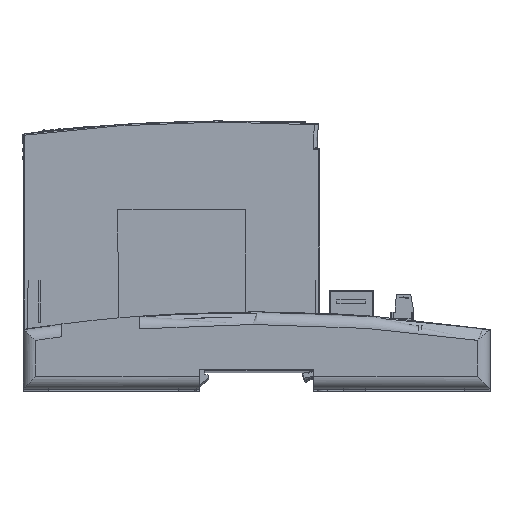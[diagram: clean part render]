
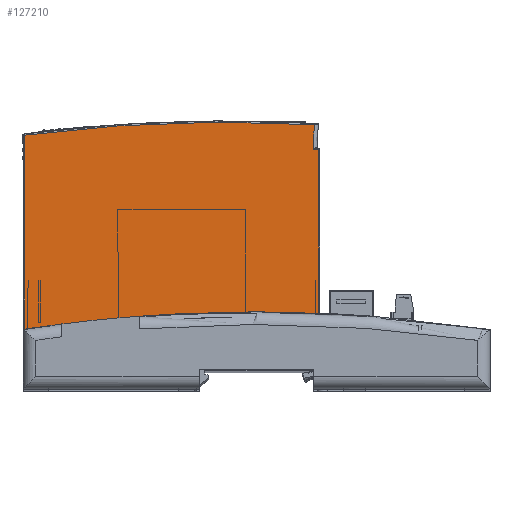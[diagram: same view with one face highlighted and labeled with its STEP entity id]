
A CAD part, top view. The second image highlights one B-rep face of the part: STEP entity #127210.
In plain terms, the highlighted planar face has unit normal (0, 0, 1).
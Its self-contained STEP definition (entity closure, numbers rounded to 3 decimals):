
#21523=DIRECTION('',(1.,0.,0.));
#21524=VECTOR('',#21523,17.321);
#21525=CARTESIAN_POINT('',(53.94,21.1,-0.2));
#21526=LINE('',#21525,#21524);
#21527=CARTESIAN_POINT('',(62.6,16.1,-0.2));
#21528=DIRECTION('',(0.,0.,1.));
#21529=DIRECTION('',(0.866,0.5,0.));
#21530=AXIS2_PLACEMENT_3D('',#21527,#21528,#21529);
#21532=DIRECTION('',(1.,0.,0.));
#21533=VECTOR('',#21532,0.3);
#21534=CARTESIAN_POINT('',(33.3,21.1,-0.2));
#21535=LINE('',#21534,#21533);
#21536=DIRECTION('',(-1.,0.,0.));
#21537=VECTOR('',#21536,25.);
#21538=CARTESIAN_POINT('',(28.6,21.1,-0.2));
#21539=LINE('',#21538,#21537);
#21540=DIRECTION('',(0.,1.,0.));
#21541=VECTOR('',#21540,2.);
#21542=CARTESIAN_POINT('',(3.6,21.1,-0.2));
#21543=LINE('',#21542,#21541);
#21544=CARTESIAN_POINT('',(78.144,-496.603,
-0.2));
#21545=DIRECTION('',(0.,0.,-1.));
#21546=DIRECTION('',(-0.129,0.992,0.));
#21547=AXIS2_PLACEMENT_3D('',#21544,#21545,#21546);
#21549=CARTESIAN_POINT('',(203.417,92.8,-0.2));
#21550=DIRECTION('',(0.,0.,1.));
#21551=DIRECTION('',(-0.995,0.1,0.));
#21552=AXIS2_PLACEMENT_3D('',#21549,#21550,#21551);
#21554=DIRECTION('',(1.,0.,0.));
#21555=VECTOR('',#21554,38.783);
#21556=CARTESIAN_POINT('',(113.917,21.1,-0.2));
#21557=LINE('',#21556,#21555);
#21558=DIRECTION('',(0.,-1.,0.));
#21559=VECTOR('',#21558,2.4);
#21560=CARTESIAN_POINT('',(152.7,21.1,-0.2));
#21561=LINE('',#21560,#21559);
#21562=DIRECTION('',(-1.,0.,0.));
#21563=VECTOR('',#21562,120.598);
#21564=CARTESIAN_POINT('',(152.7,18.7,-0.2));
#21565=LINE('',#21564,#21563);
#22392=DIRECTION('',(0.,-1.,0.));
#22393=VECTOR('',#22392,74.761);
#22394=CARTESIAN_POINT('',(0.6,97.861,
-0.2));
#22395=LINE('',#22394,#22393);
#22406=DIRECTION('',(1.,0.,0.));
#22407=VECTOR('',#22406,3.);
#22408=CARTESIAN_POINT('',(0.6,23.1,-0.2));
#22409=LINE('',#22408,#22407);
#22442=DIRECTION('',(0.,1.,0.));
#22443=VECTOR('',#22442,2.);
#22444=CARTESIAN_POINT('',(28.6,21.1,-0.2));
#22445=LINE('',#22444,#22443);
#22455=DIRECTION('',(1.,0.,0.));
#22456=VECTOR('',#22455,5.);
#22457=CARTESIAN_POINT('',(28.6,23.1,-0.2));
#22458=LINE('',#22457,#22456);
#22476=DIRECTION('',(0.,-1.,0.));
#22477=VECTOR('',#22476,2.);
#22478=CARTESIAN_POINT('',(33.6,23.1,-0.2));
#22479=LINE('',#22478,#22477);
#23865=DIRECTION('',(-1.,0.,0.));
#23866=VECTOR('',#23865,1.999);
#23867=CARTESIAN_POINT('',(113.917,92.3,-0.2));
#23868=LINE('',#23867,#23866);
#23879=DIRECTION('',(0.,1.,0.));
#23880=VECTOR('',#23879,71.2);
#23881=CARTESIAN_POINT('',(113.917,21.1,-0.2));
#23882=LINE('',#23881,#23880);
#23887=DIRECTION('',(0.001,-1.,0.));
#23888=VECTOR('',#23887,2.3);
#23889=CARTESIAN_POINT('',(32.1,21.,-0.2));
#23890=LINE('',#23889,#23888);
#23895=DIRECTION('',(-1.,0.,0.));
#23896=VECTOR('',#23895,1.2);
#23897=CARTESIAN_POINT('',(33.3,21.,-0.2));
#23898=LINE('',#23897,#23896);
#23946=DIRECTION('',(0.,1.,0.));
#23947=VECTOR('',#23946,0.1);
#23948=CARTESIAN_POINT('',(33.3,21.,-0.2));
#23949=LINE('',#23948,#23947);
#82835=CARTESIAN_POINT('',(152.7,18.7,-0.2));
#82836=CARTESIAN_POINT('',(32.102,18.7,-0.2));
#82837=VERTEX_POINT('',#82835);
#82838=VERTEX_POINT('',#82836);
#82839=CARTESIAN_POINT('',(152.7,21.1,-0.2));
#82840=VERTEX_POINT('',#82839);
#85156=CARTESIAN_POINT('',(3.6,21.1,-0.2));
#85158=VERTEX_POINT('',#85156);
#85161=CARTESIAN_POINT('',(28.6,21.1,-0.2));
#85163=VERTEX_POINT('',#85161);
#85166=CARTESIAN_POINT('',(3.6,23.1,-0.2));
#85168=VERTEX_POINT('',#85166);
#85255=CARTESIAN_POINT('',(28.6,23.1,-0.2));
#85256=CARTESIAN_POINT('',(33.6,23.1,-0.2));
#85257=VERTEX_POINT('',#85255);
#85258=VERTEX_POINT('',#85256);
#85259=CARTESIAN_POINT('',(0.6,23.1,-0.2));
#85260=VERTEX_POINT('',#85259);
#85261=CARTESIAN_POINT('',(0.6,97.861,
-0.2));
#85262=VERTEX_POINT('',#85261);
#85263=CARTESIAN_POINT('',(112.373,101.92,
-0.2));
#85264=VERTEX_POINT('',#85263);
#85265=CARTESIAN_POINT('',(113.917,92.3,-0.2));
#85266=CARTESIAN_POINT('',(111.918,92.3,-0.2));
#85267=VERTEX_POINT('',#85265);
#85268=VERTEX_POINT('',#85266);
#97902=CARTESIAN_POINT('',(33.3,21.,-0.2));
#97903=CARTESIAN_POINT('',(33.3,21.1,-0.2));
#97904=VERTEX_POINT('',#97902);
#97905=VERTEX_POINT('',#97903);
#97916=CARTESIAN_POINT('',(32.1,21.,-0.2));
#97917=VERTEX_POINT('',#97916);
#98623=CARTESIAN_POINT('',(71.26,21.1,-0.2));
#98625=VERTEX_POINT('',#98623);
#98627=CARTESIAN_POINT('',(53.94,21.1,-0.2));
#98629=VERTEX_POINT('',#98627);
#98630=CARTESIAN_POINT('',(113.917,21.1,-0.2));
#98631=VERTEX_POINT('',#98630);
#98638=CARTESIAN_POINT('',(33.6,21.1,-0.2));
#98639=VERTEX_POINT('',#98638);
#127167=CARTESIAN_POINT('',(92.4,19.9,-0.2));
#127168=DIRECTION('',(0.,0.,1.));
#127169=DIRECTION('',(1.,0.,0.));
#127170=AXIS2_PLACEMENT_3D('',#127167,#127168,#127169);
#127171=PLANE('',#127170);
#127172=ORIENTED_EDGE('',*,*,#118725,.T.);
#127174=ORIENTED_EDGE('',*,*,#127173,.F.);
#127176=ORIENTED_EDGE('',*,*,#127175,.F.);
#127178=ORIENTED_EDGE('',*,*,#127177,.F.);
#127180=ORIENTED_EDGE('',*,*,#127179,.T.);
#127182=ORIENTED_EDGE('',*,*,#127181,.T.);
#127184=ORIENTED_EDGE('',*,*,#127183,.F.);
#127186=ORIENTED_EDGE('',*,*,#127185,.F.);
#127188=ORIENTED_EDGE('',*,*,#127187,.T.);
#127189=ORIENTED_EDGE('',*,*,#127158,.T.);
#127191=ORIENTED_EDGE('',*,*,#127190,.F.);
#127193=ORIENTED_EDGE('',*,*,#127192,.F.);
#127194=ORIENTED_EDGE('',*,*,#118699,.T.);
#127195=ORIENTED_EDGE('',*,*,#118666,.T.);
#127196=ORIENTED_EDGE('',*,*,#119599,.T.);
#127198=ORIENTED_EDGE('',*,*,#127197,.F.);
#127200=ORIENTED_EDGE('',*,*,#127199,.F.);
#127202=ORIENTED_EDGE('',*,*,#127201,.T.);
#127203=EDGE_LOOP('',(#127172,#127174,#127176,#127178,#127180,#127182,#127184,
#127186,#127188,#127189,#127191,#127193,#127194,#127195,#127196,#127198,#127200,
#127202));
#127204=FACE_OUTER_BOUND('',#127203,.F.);
#127205=ORIENTED_EDGE('',*,*,#118715,.T.);
#127207=ORIENTED_EDGE('',*,*,#127206,.T.);
#127208=EDGE_LOOP('',(#127205,#127207));
#127209=FACE_BOUND('',#127208,.F.);
#21531=CIRCLE('',#21530,10.);
#21548=CIRCLE('',#21547,599.5);
#21553=CIRCLE('',#21552,91.5);
#118666=EDGE_CURVE('',#82840,#82837,#21561,.T.);
#118699=EDGE_CURVE('',#98631,#82840,#21557,.T.);
#118715=EDGE_CURVE('',#98629,#98625,#21526,.T.);
#118725=EDGE_CURVE('',#97905,#98639,#21535,.T.);
#119599=EDGE_CURVE('',#82837,#82838,#21565,.T.);
#127158=EDGE_CURVE('',#85264,#85268,#21553,.T.);
#127173=EDGE_CURVE('',#85258,#98639,#22479,.T.);
#127175=EDGE_CURVE('',#85257,#85258,#22458,.T.);
#127177=EDGE_CURVE('',#85163,#85257,#22445,.T.);
#127179=EDGE_CURVE('',#85163,#85158,#21539,.T.);
#127181=EDGE_CURVE('',#85158,#85168,#21543,.T.);
#127183=EDGE_CURVE('',#85260,#85168,#22409,.T.);
#127185=EDGE_CURVE('',#85262,#85260,#22395,.T.);
#127187=EDGE_CURVE('',#85262,#85264,#21548,.T.);
#127190=EDGE_CURVE('',#85267,#85268,#23868,.T.);
#127192=EDGE_CURVE('',#98631,#85267,#23882,.T.);
#127197=EDGE_CURVE('',#97917,#82838,#23890,.T.);
#127199=EDGE_CURVE('',#97904,#97917,#23898,.T.);
#127201=EDGE_CURVE('',#97904,#97905,#23949,.T.);
#127206=EDGE_CURVE('',#98625,#98629,#21531,.T.);
#127210=ADVANCED_FACE('',(#127204,#127209),#127171,.T.);
